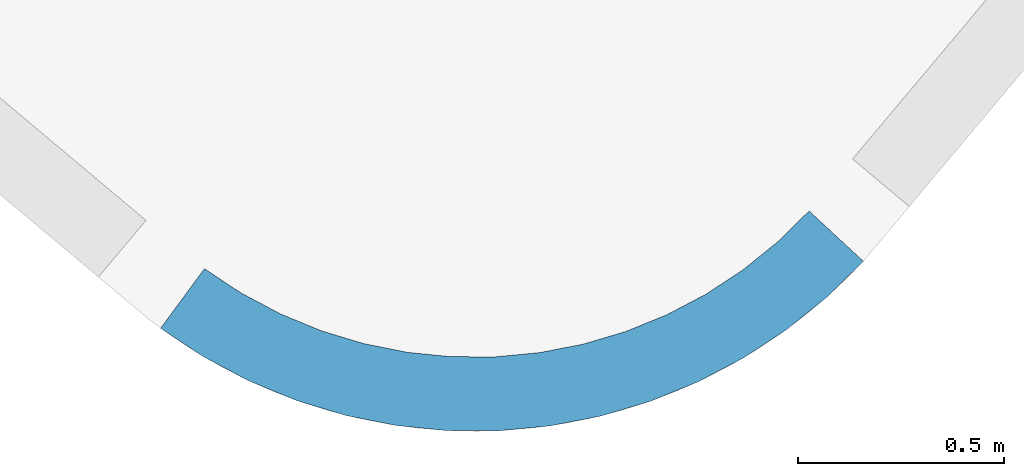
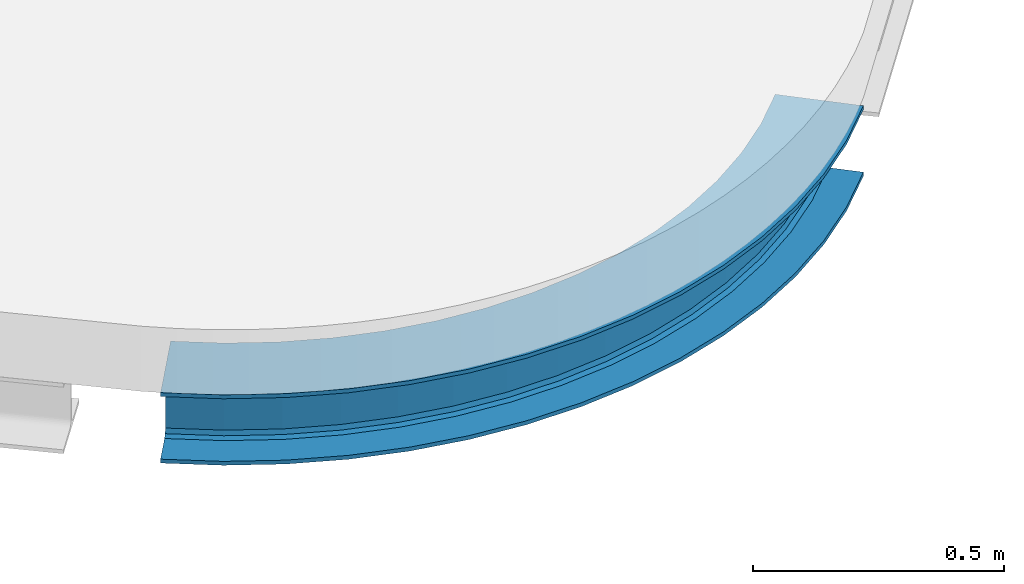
# One storey, part 7 of 14: 1 beam.
"""IFC2X3 building model written with IfcOpenShell, lengths in millimetres."""

from ifc_helpers import new_model, entity, si_unit, converted_unit, derived_unit, direction, frame, origin, place, context, subcontext, project, spatial, faceted_brep, material, type_object, element, save


model = new_model("IFC2X3")

# Units and contexts
model_context = context("Model", 3, precision=0.01, world=origin(), true_north=direction((6.123031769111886e-17, 1.0)))
body_context = subcontext(model_context, "Body", "Model", "MODEL_VIEW")
ifc_project = project(units=[si_unit("LENGTHUNIT", "METRE", prefix="MILLI"), si_unit("AREAUNIT", "SQUARE_METRE"), si_unit("VOLUMEUNIT", "CUBIC_METRE"), derived_unit("MASSDENSITYUNIT", [(si_unit("MASSUNIT", "GRAM", prefix="KILO"), 1), (si_unit("LENGTHUNIT", "METRE"), -3)]), si_unit("MASSUNIT", "GRAM", prefix="KILO"), converted_unit("PLANEANGLEUNIT", "DEGREE", entity("IfcPlaneAngleMeasure", 0.017453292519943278), si_unit("PLANEANGLEUNIT", "RADIAN"), dimensions=[0, 0, 0, 0, 0, 0, 0])], contexts=[model_context])

# Site, building, storey
site_placement = place(None, origin())
site = spatial("IfcSite", under=ifc_project, at=site_placement, Name="Default", CompositionType="ELEMENT")
building_placement = place(site_placement, origin())
building = spatial("IfcBuilding", under=site, at=building_placement, Name="AT constructie", CompositionType="ELEMENT")
storey_placement = place(building_placement, frame((0.0, 0.0, 12043.0)))
storey = spatial("IfcBuildingStorey", under=building, at=storey_placement, Name="03 derde verdieping", CompositionType="ELEMENT", Elevation=12043.0)

# Beam
ifc_material = material(Name="h2_staal_S355")
beam_type = type_object("IfcBeamType", Name="balk HE_gen_HEA180", PredefinedType="NOTDEFINED")
beam_placement = place(storey_placement, frame((32927.485465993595, 15288.157949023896, 0.0), z_axis=(0.0, 0.0, -1.0), x_axis=(-0.17364817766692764, 0.9848077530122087, 0.0)))
element("IfcBeam", 1, at=beam_placement, inside=storey, type_object=beam_type, material=ifc_material, Name="NLRS_28_SF_LIB_balk HEA_gen_AT:balk HE_gen_HEA180", ObjectType="NLRS_28_SF_LIB_balk HEA_gen_AT:balk HE_gen_HEA180", context=body_context, shape_type="Brep", body=[
    faceted_brep([(-975.359626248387, -841.0554640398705, 180.0), (-839.0416071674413, -723.5080367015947, 180.0), (-764.8299812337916, -801.5546129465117, 180.0), (-889.0909321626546, -931.7821679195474, 180.0), (-839.0416071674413, -723.5080367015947, 189.5000000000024), (-764.8299812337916, -801.5546129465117, 189.5000000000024), (-893.5688147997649, -770.5270076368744, 189.4999999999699), (-814.5343616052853, -853.6456349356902, 189.4999999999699), (-901.6014311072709, -777.4535562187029, 193.8933982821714), (-821.856508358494, -861.319367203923, 193.89339828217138), (-904.9286497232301, -780.3226265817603, 204.5000000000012), (-824.8894408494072, -864.4979311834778, 204.50000000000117), (-904.9286497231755, -780.3226265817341, 326.4999999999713), (-824.8894408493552, -864.4979311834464, 326.49999999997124), (-901.6014311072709, -777.4535562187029, 337.1066017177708), (-821.856508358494, -861.319367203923, 337.10660171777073), (-893.5688147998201, -770.5270076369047, 341.50000000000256), (-814.5343616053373, -853.6456349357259, 341.5000000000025), (-839.0416071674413, -723.5080367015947, 341.50000000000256), (-764.8299812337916, -801.5546129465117, 341.5000000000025), (-839.0416071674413, -723.5080367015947, 351.0), (-764.8299812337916, -801.5546129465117, 351.0), (-975.359626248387, -841.0554640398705, 351.0), (-889.0909321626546, -931.7821679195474, 351.0), (-975.359626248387, -841.0554640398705, 341.50000000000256), (-889.0909321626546, -931.7821679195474, 341.5000000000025), (-920.8324186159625, -794.0364931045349, 341.49999999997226), (-839.3865517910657, -879.6911459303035, 341.4999999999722), (-912.7998023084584, -787.1099445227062, 337.1066017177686), (-832.064405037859, -872.0174136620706, 337.10660171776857), (-909.472583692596, -784.2408741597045, 326.50000000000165), (-829.0314725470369, -868.8388496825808, 326.5000000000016), (-909.4725836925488, -784.2408741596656, 204.49999999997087), (-829.0314725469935, -868.8388496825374, 204.49999999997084), (-912.7998023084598, -787.1099445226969, 193.89339828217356), (-832.0644050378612, -872.0174136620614, 193.89339828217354), (-920.8324186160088, -794.0364931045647, 189.5000000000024), (-839.386551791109, -879.6911459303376, 189.5000000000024), (-975.359626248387, -841.0554640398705, 189.5000000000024), (-889.0909321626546, -931.7821679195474, 189.5000000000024), (-1052.4118182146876, -742.3813433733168, 180.0), (-905.3248459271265, -638.6247889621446, 180.0), (-905.3248459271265, -638.6247889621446, 189.5000000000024), (-964.1596348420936, -680.1274107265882, 189.4999999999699), (-972.8268178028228, -686.2413243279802, 193.8933982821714), (-976.4168825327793, -688.773790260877, 204.5000000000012), (-976.4168825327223, -688.7737902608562, 326.4999999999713), (-972.8268178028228, -686.2413243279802, 337.1066017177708), (-964.1596348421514, -680.1274107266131, 341.50000000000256), (-905.3248459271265, -638.6247889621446, 341.50000000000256), (-905.3248459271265, -638.6247889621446, 351.0), (-1052.4118182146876, -742.3813433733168, 351.0), (-1052.4118182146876, -742.3813433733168, 341.50000000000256), (-993.5770292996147, -700.8787216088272, 341.49999999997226), (-984.9098463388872, -694.7648080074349, 337.1066017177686), (-981.3197816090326, -692.2323420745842, 326.50000000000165), (-981.3197816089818, -692.23234207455, 204.49999999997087), (-984.9098463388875, -694.7648080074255, 193.89339828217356), (-993.5770292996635, -700.8787216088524, 189.5000000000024), (-1052.4118182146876, -742.3813433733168, 189.5000000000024), (-1119.5194159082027, -636.6922109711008, 180.0), (-963.0533648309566, -547.7069601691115, 180.0), (-963.0533648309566, -547.7069601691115, 189.5000000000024), (-1025.6397852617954, -583.3010604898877, 189.4999999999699), (-1034.859635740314, -588.5445666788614, 193.8933982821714), (-1038.6786228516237, -590.716498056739, 204.5000000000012), (-1038.6786228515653, -590.7164980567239, 326.4999999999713), (-1034.859635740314, -588.5445666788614, 337.1066017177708), (-1025.6397852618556, -583.301060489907, 341.50000000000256), (-963.0533648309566, -547.7069601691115, 341.50000000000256), (-963.0533648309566, -547.7069601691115, 351.0), (-1119.5194159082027, -636.6922109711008, 351.0), (-1119.5194159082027, -636.6922109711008, 341.50000000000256), (-1056.932995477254, -601.0981106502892, 341.49999999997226), (-1047.7131449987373, -595.854604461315, 337.1066017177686), (-1043.8941578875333, -593.6826730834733, 326.50000000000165), (-1043.8941578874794, -593.6826730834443, 204.49999999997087), (-1047.7131449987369, -595.8546044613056, 193.89339828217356), (-1056.9329954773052, -601.0981106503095, 189.5000000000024), (-1119.5194159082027, -636.6922109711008, 189.5000000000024), (-1176.0482970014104, -524.9867590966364, 180.0), (-1011.6816676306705, -451.61366355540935, 180.0), (-1011.6816676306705, -451.61366355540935, 189.5000000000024), (-1077.4283193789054, -480.96290177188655, 189.4999999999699), (-1087.113715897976, -485.2864528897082, 193.8933982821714), (-1091.125538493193, -487.0773264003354, 204.5000000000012), (-1091.125538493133, -487.0773264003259, 326.4999999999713), (-1087.113715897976, -485.2864528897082, 337.1066017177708), (-1077.4283193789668, -480.9629017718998, 341.50000000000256), (-1011.6816676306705, -451.61366355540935, 341.50000000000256), (-1011.6816676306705, -451.61366355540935, 351.0), (-1176.0482970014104, -524.9867590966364, 351.0), (-1176.0482970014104, -524.9867590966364, 341.50000000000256), (-1110.3016452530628, -495.6375208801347, 341.49999999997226), (-1100.616248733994, -491.31396976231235, 337.1066017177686), (-1096.6044261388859, -489.5230962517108, 326.50000000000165), (-1096.6044261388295, -489.52309625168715, 204.49999999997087), (-1100.6162487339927, -491.3139697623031, 193.89339828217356), (-1110.301645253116, -495.63752088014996, 189.5000000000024), (-1176.0482970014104, -524.9867590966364, 189.5000000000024), (-1221.4643010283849, -408.3205302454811, 180.0), (-1050.7502490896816, -351.25291709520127, 180.0), (-1050.7502490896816, -351.25291709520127, 189.5000000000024), (-1119.0358698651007, -374.0799623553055, 189.4999999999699), (-1129.09529184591, -377.4427037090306, 193.8933982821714), (-1133.262040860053, -378.8355967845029, 204.5000000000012), (-1133.2620408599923, -378.83559678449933, 326.4999999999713), (-1129.09529184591, -377.4427037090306, 337.1066017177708), (-1119.0358698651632, -374.0799623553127, 341.50000000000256), (-1050.7502490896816, -351.25291709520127, 341.50000000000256), (-1050.7502490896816, -351.25291709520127, 351.0), (-1221.4643010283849, -408.3205302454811, 351.0), (-1221.4643010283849, -408.3205302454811, 341.50000000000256), (-1153.178680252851, -385.49348498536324, 341.49999999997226), (-1143.1192582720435, -382.13074363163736, 337.1066017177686), (-1138.9525092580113, -380.7378505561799, 326.50000000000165), (-1138.952509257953, -380.73785055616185, 204.49999999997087), (-1143.1192582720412, -382.1307436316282, 193.89339828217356), (-1153.1786802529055, -385.49348498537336, 189.5000000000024), (-1221.4643010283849, -408.3205302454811, 189.5000000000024), (-1255.3382768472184, -287.7959429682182, 180.0), (-1079.8899370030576, -247.57306333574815, 180.0), (-1079.8899370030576, -247.57306333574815, 189.5000000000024), (-1150.0692729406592, -263.66221518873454, 189.4999999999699), (-1160.4076655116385, -266.0323711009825, 193.8933982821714), (-1164.6899679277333, -267.0141218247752, 204.5000000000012), (-1164.6899679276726, -267.01412182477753, 326.4999999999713), (-1160.4076655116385, -266.0323711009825, 337.1066017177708), (-1150.0692729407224, -263.6622151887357, 341.50000000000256), (-1079.8899370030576, -247.57306333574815, 341.50000000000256), (-1079.8899370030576, -247.57306333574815, 351.0), (-1255.3382768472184, -287.7959429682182, 351.0), (-1255.3382768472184, -287.7959429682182, 341.50000000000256), (-1185.1589409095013, -271.7067911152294, 341.49999999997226), (-1174.8205483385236, -269.33663520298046, 337.1066017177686), (-1170.5382459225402, -268.3548844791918, 326.50000000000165), (-1170.5382459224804, -268.3548844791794, 204.49999999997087), (-1174.8205483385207, -269.3366352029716, 193.89339828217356), (-1185.1589409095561, -271.7067911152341, 189.5000000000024), (-1255.3382768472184, -287.7959429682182, 189.5000000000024), (-1277.3501378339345, -164.55187474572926, 180.0), (-1098.8253806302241, -141.55380818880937, 180.0), (-1098.8253806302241, -141.55380818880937, 189.5000000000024), (-1170.2352835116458, -150.7530348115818, 189.4999999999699), (-1180.7549557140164, -152.1082088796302, 193.8933982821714), (-1185.1123466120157, -152.6695403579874, 204.5000000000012), (-1185.1123466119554, -152.6695403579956, 326.4999999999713), (-1180.7549557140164, -152.1082088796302, 337.1066017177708), (-1170.2352835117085, -150.7530348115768, 341.50000000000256), (-1098.8253806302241, -141.55380818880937, 341.50000000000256), (-1098.8253806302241, -141.55380818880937, 351.0), (-1277.3501378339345, -164.55187474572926, 351.0), (-1277.3501378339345, -164.55187474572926, 341.50000000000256), (-1205.9402349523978, -155.3526481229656, 341.49999999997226), (-1195.4205627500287, -153.99747405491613, 337.1066017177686), (-1191.063171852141, -153.4361425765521, 326.50000000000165), (-1191.0631718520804, -153.43614257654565, 204.49999999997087), (-1195.4205627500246, -153.99747405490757, 193.89339828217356), (-1205.9402349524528, -155.35264812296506, 189.5000000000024), (-1277.3501378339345, -164.55187474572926, 189.5000000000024), (-1287.2918864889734, -39.75290035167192, 180.0), (-1107.377652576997, -34.19696335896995, 180.0), (-1107.377652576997, -34.19696335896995, 189.5000000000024), (-1179.3433461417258, -36.41933815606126, 189.4999999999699), (-1189.9448940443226, -36.7467248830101, 193.8933982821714), (-1194.3361989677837, -36.88233290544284, 204.5000000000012), (-1194.3361989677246, -36.88233290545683, 326.4999999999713), (-1189.9448940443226, -36.7467248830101, 337.1066017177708), (-1179.3433461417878, -36.4193381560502, 341.50000000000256), (-1107.377652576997, -34.19696335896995, 341.50000000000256), (-1107.377652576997, -34.19696335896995, 351.0), (-1287.2918864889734, -39.75290035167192, 351.0), (-1287.2918864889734, -39.75290035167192, 341.50000000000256), (-1215.326192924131, -37.53052555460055, 341.49999999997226), (-1204.724645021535, -37.2031388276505, 337.1066017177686), (-1200.3333400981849, -37.067530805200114, 326.50000000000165), (-1200.3333400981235, -37.06753080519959, 204.49999999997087), (-1204.7246450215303, -37.20313882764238, 193.89339828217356), (-1215.3261929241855, -37.53052555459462, 189.5000000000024), (-1287.2918864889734, -39.75290035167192, 189.5000000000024), (-1285.0695798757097, 85.4217126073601, 180.0), (-1105.4659395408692, 73.48302011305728, 180.0), (-1105.4659395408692, 73.48302011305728, 189.5000000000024), (-1177.3073956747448, 78.25849711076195, 189.4999999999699), (-1187.8906416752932, 78.96199131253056, 193.8933982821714), (-1192.274365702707, 79.25338815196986, 204.5000000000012), (-1192.2743657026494, 79.2533881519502, 326.4999999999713), (-1187.8906416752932, 78.96199131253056, 337.1066017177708), (-1177.3073956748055, 78.25849711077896, 341.50000000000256), (-1105.4659395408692, 73.48302011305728, 341.50000000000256), (-1105.4659395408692, 73.48302011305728, 351.0), (-1285.0695798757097, 85.4217126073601, 351.0), (-1285.0695798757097, 85.4217126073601, 341.50000000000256), (-1213.2281237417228, 80.64623560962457, 341.49999999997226), (-1202.6448777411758, 79.9427414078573, 337.1066017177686), (-1198.2611537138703, 79.65134456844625, 326.50000000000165), (-1198.2611537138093, 79.65134456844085, 204.49999999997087), (-1202.6448777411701, 79.94274140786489, 193.89339828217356), (-1213.2281237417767, 80.6462356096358, 189.5000000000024), (-1285.0695798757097, 85.4217126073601, 189.5000000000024), (-1270.7042173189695, 209.7891469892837, 180.0), (-1093.1083059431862, 180.46863774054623, 180.0), (-1093.1083059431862, 180.46863774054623, 189.5000000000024), (-1164.1466704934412, 192.19684144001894, 189.4999999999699), (-1174.6116099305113, 193.92456901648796, 193.8933982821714), (-1178.946329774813, 194.64021721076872, 204.5000000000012), (-1178.946329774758, 194.64021721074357, 326.4999999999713), (-1174.6116099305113, 193.92456901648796, 337.1066017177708), (-1164.1466704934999, 192.1968414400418, 341.50000000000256), (-1093.1083059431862, 180.46863774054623, 341.50000000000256), (-1093.1083059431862, 180.46863774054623, 351.0), (-1270.7042173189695, 209.7891469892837, 351.0), (-1270.7042173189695, 209.7891469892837, 341.50000000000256), (-1199.6658527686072, 198.06094328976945, 341.49999999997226), (-1189.200913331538, 196.33321571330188, 337.1066017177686), (-1184.8661934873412, 195.61756751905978, 326.50000000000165), (-1184.8661934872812, 195.6175675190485, 204.49999999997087), (-1189.2009133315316, 196.33321571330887, 193.89339828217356), (-1199.66585276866, 198.06094328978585, 189.5000000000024), (-1270.7042173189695, 209.7891469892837, 189.5000000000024), (-1244.3315419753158, 332.1742129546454, 180.0), (-1070.421523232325, 285.74894633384, 180.0), (-1070.421523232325, 285.74894633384, 189.5000000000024), (-1139.9855307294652, 304.3190529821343, 189.4999999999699), (-1150.2332768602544, 307.05468805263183, 193.8933982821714), (-1154.4780322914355, 308.1878252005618, 204.5000000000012), (-1154.478032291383, 308.1878252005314, 326.4999999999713), (-1150.2332768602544, 307.05468805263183, 337.1066017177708), (-1139.9855307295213, 304.31905298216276, 341.50000000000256), (-1070.421523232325, 285.74894633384, 341.50000000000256), (-1070.421523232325, 285.74894633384, 351.0), (-1244.3315419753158, 332.1742129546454, 351.0), (-1244.3315419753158, 332.1742129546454, 341.50000000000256), (-1174.7675344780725, 313.60410630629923, 341.49999999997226), (-1164.5197883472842, 310.8684712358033, 337.1066017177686), (-1160.2750329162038, 309.73533408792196, 326.50000000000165), (-1160.275032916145, 309.7353340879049, 204.49999999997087), (-1164.5197883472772, 310.8684712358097, 193.89339828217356), (-1174.7675344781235, 313.6041063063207, 189.5000000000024), (-1244.3315419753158, 332.1742129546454, 189.5000000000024), (-1206.2007581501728, 451.4204527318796, 180.0), (-1037.6199664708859, 388.3291167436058, 180.0), (-1037.6199664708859, 388.3291167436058, 189.5000000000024), (-1105.0522831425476, 413.5656511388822, 189.4999999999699), (-1114.9860015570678, 417.283343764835, 193.8933982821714), (-1119.1006824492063, 418.8232624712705, 204.5000000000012), (-1119.1006824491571, 418.8232624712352, 326.4999999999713), (-1114.9860015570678, 417.283343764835, 337.1066017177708), (-1105.0522831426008, 413.56565113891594, 341.50000000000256), (-1037.6199664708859, 388.3291167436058, 341.50000000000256), (-1037.6199664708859, 388.3291167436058, 351.0), (-1206.2007581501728, 451.4204527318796, 351.0), (-1206.2007581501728, 451.4204527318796, 341.50000000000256), (-1138.7684414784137, 426.1839183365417, 341.49999999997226), (-1128.8347230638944, 422.46622571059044, 337.1066017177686), (-1124.7200421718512, 420.9263070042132, 326.50000000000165), (-1124.7200421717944, 420.9263070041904, 204.49999999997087), (-1128.8347230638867, 422.46622571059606, 193.89339828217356), (-1138.7684414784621, 426.18391833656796, 189.5000000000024), (-1206.2007581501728, 451.4204527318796, 189.5000000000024), (-1156.6721764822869, 566.4010683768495, 180.0), (-995.0135886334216, 487.23983433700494, 180.0), (-995.0135886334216, 487.23983433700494, 189.5000000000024), (-1059.6770237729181, 518.9043279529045, 189.4999999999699), (-1069.2028474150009, 523.5689484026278, 193.8933982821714), (-1073.1485727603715, 525.5010974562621, 204.5000000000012), (-1073.148572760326, 525.501097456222, 326.4999999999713), (-1069.2028474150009, 523.5689484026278, 337.1066017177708), (-1059.6770237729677, 518.9043279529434, 341.50000000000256), (-995.0135886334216, 487.23983433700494, 341.50000000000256), (-995.0135886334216, 487.23983433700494, 351.0), (-1156.6721764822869, 566.4010683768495, 351.0), (-1156.6721764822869, 566.4010683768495, 341.50000000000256), (-1092.0087413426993, 534.7365747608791, 341.49999999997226), (-1082.482917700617, 530.0719543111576, 337.1066017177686), (-1078.5371923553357, 528.1398052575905, 326.50000000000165), (-1078.5371923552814, 528.1398052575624, 204.49999999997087), (-1082.4829177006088, 530.0719543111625, 193.89339828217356), (-1092.008741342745, 534.7365747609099, 189.5000000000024), (-1156.6721764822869, 566.4010683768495, 189.5000000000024), (-1096.213809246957, 676.0295692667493, 180.0), (-943.0049917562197, 581.5464583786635, 180.0), (-943.0049917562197, 581.5464583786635, 189.5000000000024), (-1004.2885187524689, 619.3397027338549, 189.4999999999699), (-1013.3164349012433, 624.9071734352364, 193.8933982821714), (-1017.0559202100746, 627.2132953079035, 204.5000000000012), (-1017.0559202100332, 627.2132953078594, 326.4999999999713), (-1013.3164349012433, 624.9071734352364, 337.1066017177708), (-1004.2885187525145, 619.3397027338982, 341.50000000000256), (-943.0049917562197, 581.5464583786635, 341.50000000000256), (-943.0049917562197, 581.5464583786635, 351.0), (-1096.213809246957, 676.0295692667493, 351.0), (-1096.213809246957, 676.0295692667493, 341.50000000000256), (-1034.930282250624, 638.2363249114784, 341.49999999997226), (-1025.90236610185, 632.6688542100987, 337.1066017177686), (-1022.1628807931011, 630.362732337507, 326.50000000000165), (-1022.1628807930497, 630.3627323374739, 204.49999999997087), (-1025.9023661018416, 632.6688542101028, 193.89339828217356), (-1034.9302822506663, 638.2363249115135, 189.5000000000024), (-1096.213809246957, 676.0295692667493, 189.5000000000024), (-1025.3969479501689, 779.2700387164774, 180.0), (-882.0856226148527, 670.3578537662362, 180.0), (-882.0856226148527, 670.3578537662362, 189.5000000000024), (-939.4101527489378, 713.9227277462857, 189.4999999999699), (-947.854853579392, 720.3404397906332, 193.8933982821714), (-951.3527631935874, 722.9987431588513, 204.5000000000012), (-951.3527631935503, 722.9987431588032, 326.4999999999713), (-947.854853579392, 720.3404397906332, 337.1066017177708), (-939.4101527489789, 713.9227277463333, 341.50000000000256), (-882.0856226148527, 670.3578537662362, 341.50000000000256), (-882.0856226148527, 670.3578537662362, 351.0), (-1025.3969479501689, 779.2700387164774, 351.0), (-1025.3969479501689, 779.2700387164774, 341.50000000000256), (-968.0724178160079, 735.7051647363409, 341.49999999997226), (-959.6277169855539, 729.287452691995, 337.1066017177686), (-956.1298073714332, 726.6291493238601, 326.50000000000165), (-956.1298073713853, 726.629149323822, 204.49999999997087), (-959.627716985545, 729.2874526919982, 193.89339828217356), (-968.0724178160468, 735.70516473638, 189.5000000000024), (-1025.3969479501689, 779.2700387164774, 189.5000000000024)], [[[0, 1, 2, 3]], [[1, 4, 5, 2]], [[4, 6, 7, 5]], [[6, 8, 9, 7]], [[8, 10, 11, 9]], [[10, 12, 13, 11]], [[12, 14, 15, 13]], [[14, 16, 17, 15]], [[16, 18, 19, 17]], [[18, 20, 21, 19]], [[20, 22, 23, 21]], [[22, 24, 25, 23]], [[24, 26, 27, 25]], [[26, 28, 29, 27]], [[28, 30, 31, 29]], [[30, 32, 33, 31]], [[32, 34, 35, 33]], [[34, 36, 37, 35]], [[36, 38, 39, 37]], [[38, 0, 3, 39]], [[40, 41, 1, 0]], [[41, 42, 4, 1]], [[42, 43, 6, 4]], [[43, 44, 8, 6]], [[44, 45, 10, 8]], [[45, 46, 12, 10]], [[46, 47, 14, 12]], [[47, 48, 16, 14]], [[48, 49, 18, 16]], [[49, 50, 20, 18]], [[50, 51, 22, 20]], [[51, 52, 24, 22]], [[52, 53, 26, 24]], [[53, 54, 28, 26]], [[54, 55, 30, 28]], [[55, 56, 32, 30]], [[56, 57, 34, 32]], [[57, 58, 36, 34]], [[58, 59, 38, 36]], [[59, 40, 0, 38]], [[60, 61, 41, 40]], [[61, 62, 42, 41]], [[62, 63, 43, 42]], [[63, 64, 44, 43]], [[64, 65, 45, 44]], [[65, 66, 46, 45]], [[66, 67, 47, 46]], [[67, 68, 48, 47]], [[68, 69, 49, 48]], [[69, 70, 50, 49]], [[70, 71, 51, 50]], [[71, 72, 52, 51]], [[72, 73, 53, 52]], [[73, 74, 54, 53]], [[74, 75, 55, 54]], [[75, 76, 56, 55]], [[76, 77, 57, 56]], [[77, 78, 58, 57]], [[78, 79, 59, 58]], [[79, 60, 40, 59]], [[80, 81, 61, 60]], [[81, 82, 62, 61]], [[82, 83, 63, 62]], [[83, 84, 64, 63]], [[84, 85, 65, 64]], [[85, 86, 66, 65]], [[86, 87, 67, 66]], [[87, 88, 68, 67]], [[88, 89, 69, 68]], [[89, 90, 70, 69]], [[90, 91, 71, 70]], [[91, 92, 72, 71]], [[92, 93, 73, 72]], [[93, 94, 74, 73]], [[94, 95, 75, 74]], [[95, 96, 76, 75]], [[96, 97, 77, 76]], [[97, 98, 78, 77]], [[98, 99, 79, 78]], [[99, 80, 60, 79]], [[100, 101, 81, 80]], [[101, 102, 82, 81]], [[102, 103, 83, 82]], [[103, 104, 84, 83]], [[104, 105, 85, 84]], [[105, 106, 86, 85]], [[106, 107, 87, 86]], [[107, 108, 88, 87]], [[108, 109, 89, 88]], [[109, 110, 90, 89]], [[110, 111, 91, 90]], [[111, 112, 92, 91]], [[112, 113, 93, 92]], [[113, 114, 94, 93]], [[114, 115, 95, 94]], [[115, 116, 96, 95]], [[116, 117, 97, 96]], [[117, 118, 98, 97]], [[118, 119, 99, 98]], [[119, 100, 80, 99]], [[120, 121, 101, 100]], [[121, 122, 102, 101]], [[122, 123, 103, 102]], [[123, 124, 104, 103]], [[124, 125, 105, 104]], [[125, 126, 106, 105]], [[126, 127, 107, 106]], [[127, 128, 108, 107]], [[128, 129, 109, 108]], [[129, 130, 110, 109]], [[130, 131, 111, 110]], [[131, 132, 112, 111]], [[132, 133, 113, 112]], [[133, 134, 114, 113]], [[134, 135, 115, 114]], [[135, 136, 116, 115]], [[136, 137, 117, 116]], [[137, 138, 118, 117]], [[138, 139, 119, 118]], [[139, 120, 100, 119]], [[140, 141, 121, 120]], [[141, 142, 122, 121]], [[142, 143, 123, 122]], [[143, 144, 124, 123]], [[144, 145, 125, 124]], [[145, 146, 126, 125]], [[146, 147, 127, 126]], [[147, 148, 128, 127]], [[148, 149, 129, 128]], [[149, 150, 130, 129]], [[150, 151, 131, 130]], [[151, 152, 132, 131]], [[152, 153, 133, 132]], [[153, 154, 134, 133]], [[154, 155, 135, 134]], [[155, 156, 136, 135]], [[156, 157, 137, 136]], [[157, 158, 138, 137]], [[158, 159, 139, 138]], [[159, 140, 120, 139]], [[160, 161, 141, 140]], [[161, 162, 142, 141]], [[162, 163, 143, 142]], [[163, 164, 144, 143]], [[164, 165, 145, 144]], [[165, 166, 146, 145]], [[166, 167, 147, 146]], [[167, 168, 148, 147]], [[168, 169, 149, 148]], [[169, 170, 150, 149]], [[170, 171, 151, 150]], [[171, 172, 152, 151]], [[172, 173, 153, 152]], [[173, 174, 154, 153]], [[174, 175, 155, 154]], [[175, 176, 156, 155]], [[176, 177, 157, 156]], [[177, 178, 158, 157]], [[178, 179, 159, 158]], [[179, 160, 140, 159]], [[180, 181, 161, 160]], [[181, 182, 162, 161]], [[182, 183, 163, 162]], [[183, 184, 164, 163]], [[184, 185, 165, 164]], [[185, 186, 166, 165]], [[186, 187, 167, 166]], [[187, 188, 168, 167]], [[188, 189, 169, 168]], [[189, 190, 170, 169]], [[190, 191, 171, 170]], [[191, 192, 172, 171]], [[192, 193, 173, 172]], [[193, 194, 174, 173]], [[194, 195, 175, 174]], [[195, 196, 176, 175]], [[196, 197, 177, 176]], [[197, 198, 178, 177]], [[198, 199, 179, 178]], [[199, 180, 160, 179]], [[200, 201, 181, 180]], [[201, 202, 182, 181]], [[202, 203, 183, 182]], [[203, 204, 184, 183]], [[204, 205, 185, 184]], [[205, 206, 186, 185]], [[206, 207, 187, 186]], [[207, 208, 188, 187]], [[208, 209, 189, 188]], [[209, 210, 190, 189]], [[210, 211, 191, 190]], [[211, 212, 192, 191]], [[212, 213, 193, 192]], [[213, 214, 194, 193]], [[214, 215, 195, 194]], [[215, 216, 196, 195]], [[216, 217, 197, 196]], [[217, 218, 198, 197]], [[218, 219, 199, 198]], [[219, 200, 180, 199]], [[220, 221, 201, 200]], [[221, 222, 202, 201]], [[222, 223, 203, 202]], [[223, 224, 204, 203]], [[224, 225, 205, 204]], [[225, 226, 206, 205]], [[226, 227, 207, 206]], [[227, 228, 208, 207]], [[228, 229, 209, 208]], [[229, 230, 210, 209]], [[230, 231, 211, 210]], [[231, 232, 212, 211]], [[232, 233, 213, 212]], [[233, 234, 214, 213]], [[234, 235, 215, 214]], [[235, 236, 216, 215]], [[236, 237, 217, 216]], [[237, 238, 218, 217]], [[238, 239, 219, 218]], [[239, 220, 200, 219]], [[240, 241, 221, 220]], [[241, 242, 222, 221]], [[242, 243, 223, 222]], [[243, 244, 224, 223]], [[244, 245, 225, 224]], [[245, 246, 226, 225]], [[246, 247, 227, 226]], [[247, 248, 228, 227]], [[248, 249, 229, 228]], [[249, 250, 230, 229]], [[250, 251, 231, 230]], [[251, 252, 232, 231]], [[252, 253, 233, 232]], [[253, 254, 234, 233]], [[254, 255, 235, 234]], [[255, 256, 236, 235]], [[256, 257, 237, 236]], [[257, 258, 238, 237]], [[258, 259, 239, 238]], [[259, 240, 220, 239]], [[260, 261, 241, 240]], [[261, 262, 242, 241]], [[262, 263, 243, 242]], [[263, 264, 244, 243]], [[264, 265, 245, 244]], [[265, 266, 246, 245]], [[266, 267, 247, 246]], [[267, 268, 248, 247]], [[268, 269, 249, 248]], [[269, 270, 250, 249]], [[270, 271, 251, 250]], [[271, 272, 252, 251]], [[272, 273, 253, 252]], [[273, 274, 254, 253]], [[274, 275, 255, 254]], [[275, 276, 256, 255]], [[276, 277, 257, 256]], [[277, 278, 258, 257]], [[278, 279, 259, 258]], [[279, 260, 240, 259]], [[280, 281, 261, 260]], [[281, 282, 262, 261]], [[282, 283, 263, 262]], [[283, 284, 264, 263]], [[284, 285, 265, 264]], [[285, 286, 266, 265]], [[286, 287, 267, 266]], [[287, 288, 268, 267]], [[288, 289, 269, 268]], [[289, 290, 270, 269]], [[290, 291, 271, 270]], [[291, 292, 272, 271]], [[292, 293, 273, 272]], [[293, 294, 274, 273]], [[294, 295, 275, 274]], [[295, 296, 276, 275]], [[296, 297, 277, 276]], [[297, 298, 278, 277]], [[298, 299, 279, 278]], [[299, 280, 260, 279]], [[300, 301, 281, 280]], [[301, 302, 282, 281]], [[302, 303, 283, 282]], [[303, 304, 284, 283]], [[304, 305, 285, 284]], [[305, 306, 286, 285]], [[306, 307, 287, 286]], [[307, 308, 288, 287]], [[308, 309, 289, 288]], [[309, 310, 290, 289]], [[310, 311, 291, 290]], [[311, 312, 292, 291]], [[312, 313, 293, 292]], [[313, 314, 294, 293]], [[314, 315, 295, 294]], [[315, 316, 296, 295]], [[316, 317, 297, 296]], [[317, 318, 298, 297]], [[318, 319, 299, 298]], [[319, 300, 280, 299]], [[3, 2, 5, 7, 9, 11, 13, 15, 17, 19, 21, 23, 25, 27, 29, 31, 33, 35, 37, 39]], [[319, 318, 317, 316, 315, 314, 313, 312, 311, 310, 309, 308, 307, 306, 305, 304, 303, 302, 301, 300]]]),
])

save(model, "model.ifc")
